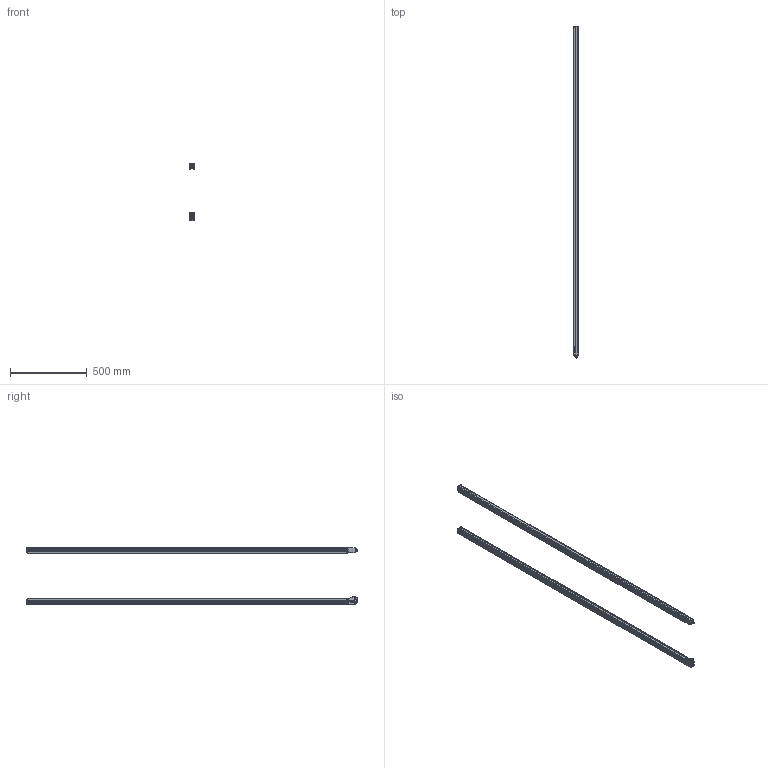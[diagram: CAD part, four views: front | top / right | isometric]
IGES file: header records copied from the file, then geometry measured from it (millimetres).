
Global section: file name: E:\sy\3DCAD_CML700_2080_A_EX.igs; native system: NX V8.5; preprocessor: SIEMENS PLM Software NX 8.5; date: 20161019.141604; units: millimetre
Bounding box: 30.65 x 2155.3 x 370.4 mm (x, y, z)
Surface area: 1630690.1 mm2 (no closed solid volume)
Topology: 0 solids, 0 shells, 1213 faces, 7388 edges, 7342 vertices
Faces by surface type: bspline 1213
